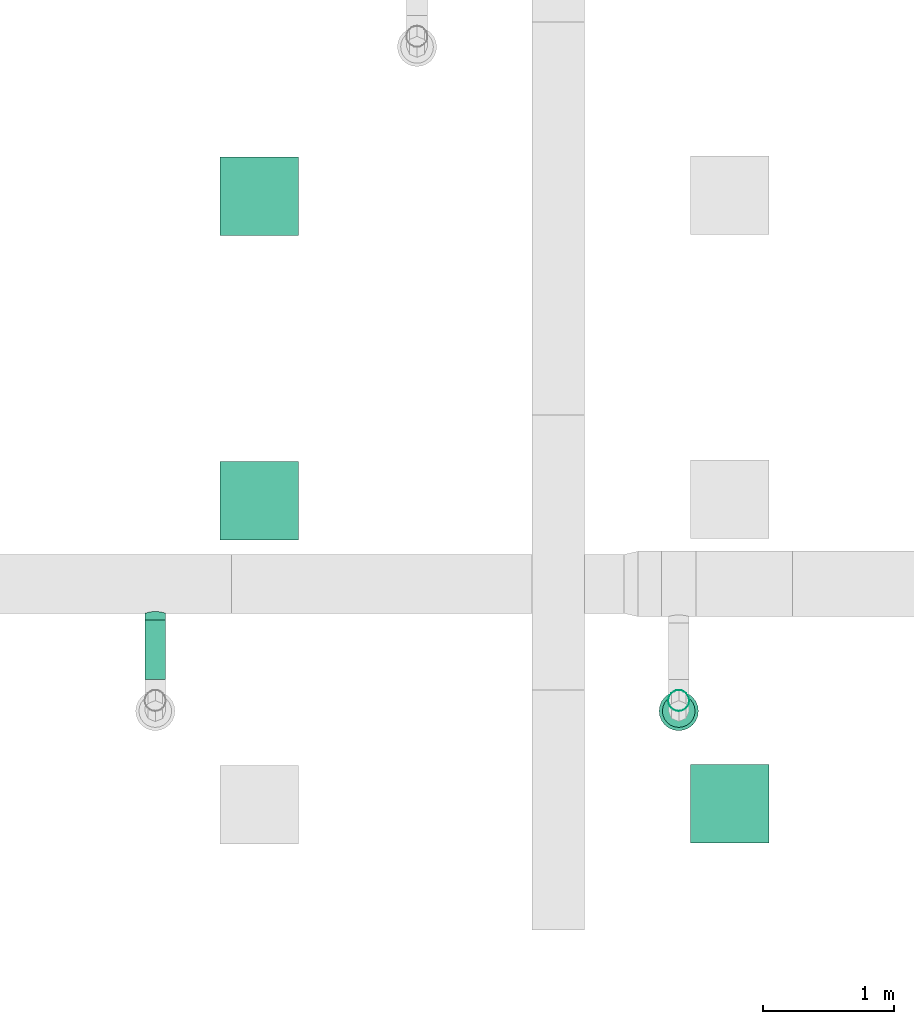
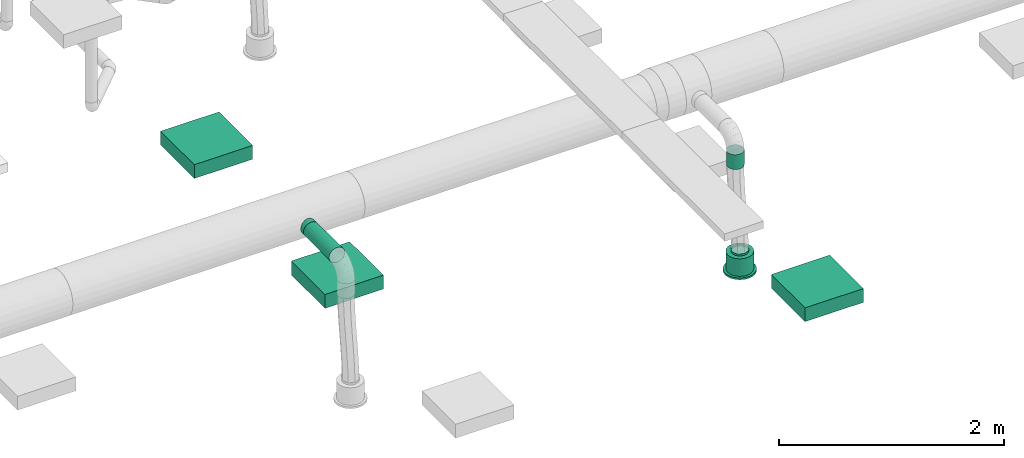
# One storey, part 71 of 374: 3 distribution elements, 3 flow segments, 1 flow terminal.
"""IFC2X3 building model written with IfcOpenShell, lengths in metres."""

import ifcopenshell
import ifcopenshell.guid

model = None  # the IFC model being written
_history = None  # IfcOwnerHistory: only IFC2X3 demands one
_inside = {}  # id of a spatial element -> (the spatial element, [elements in it])
_under = {}  # id of a project, library or spatial element -> (it, [spatial elements below it])
_declared = {}  # id of a project -> (the project, [libraries it declares])
_typed = {}  # id of a type object -> (the type object, [elements of that type])
_made_of = {}  # id of a material, layer set ... -> (it, [elements and type objects made of it])


def new_model(schema):
    """Start an empty IFC model of exactly this schema.

    Asked for "IFC4X3", IfcOpenShell would pick the latest addendum, in which some entities
    have other attributes; the version numbers below select the first issue.
    IFC2X3 requires an IfcOwnerHistory on every rooted entity: one is made here for all.
    """
    global model, _history
    if schema == "IFC4X3":
        model = ifcopenshell.file(schema_version=(4, 3, 0, 0))
    else:
        model = ifcopenshell.file(schema=schema)
    _inside.clear()
    _under.clear()
    _declared.clear()
    _typed.clear()
    _made_of.clear()
    _history = None
    if model.schema == "IFC2X3":
        org = make("IfcOrganization", Name="unknown")
        user = make(
            "IfcPersonAndOrganization",
            ThePerson=make("IfcPerson", FamilyName="unknown"),
            TheOrganization=org,
        )
        app = make(
            "IfcApplication",
            ApplicationDeveloper=org,
            Version="unknown",
            ApplicationFullName="unknown",
            ApplicationIdentifier="unknown",
        )
        _history = make(
            "IfcOwnerHistory",
            OwningUser=user,
            OwningApplication=app,
            ChangeAction="ADDED",
            CreationDate=0,
        )
    return model


def make(cls, **values):
    """One entity of the class cls with the attributes given. An attribute that is None is left unset."""
    return model.create_entity(
        cls, **{name: value for name, value in values.items() if value is not None}
    )


def rooted(cls, **values):
    """An entity with a GlobalId (a new one), such as an element, a storey or a relation."""
    return make(cls, GlobalId=ifcopenshell.guid.new(), OwnerHistory=_history, **values)


def si_unit(unit_type, name, prefix=None):
    """IfcSIUnit, for example si_unit("LENGTHUNIT", "METRE", prefix="MILLI")."""
    return make("IfcSIUnit", UnitType=unit_type, Prefix=prefix, Name=name)


def assignment(units):
    """IfcUnitAssignment: the units of a project."""
    return None if units is None else make("IfcUnitAssignment", Units=units)


def point(xyz):
    """IfcCartesianPoint."""
    return None if xyz is None else make("IfcCartesianPoint", Coordinates=xyz)


def direction(xyz):
    """IfcDirection."""
    return None if xyz is None else make("IfcDirection", DirectionRatios=xyz)


def frame(location, z_axis=None, x_axis=None):
    """IfcAxis2Placement3D, a coordinate frame: its origin and axes. An axis left out is left unset."""
    return make(
        "IfcAxis2Placement3D",
        Location=point(location),
        Axis=direction(z_axis),
        RefDirection=direction(x_axis),
    )


def frame_2d(location, x_axis=None):
    """IfcAxis2Placement2D, a coordinate frame in the plane: its origin and x axis."""
    return make(
        "IfcAxis2Placement2D", Location=point(location), RefDirection=direction(x_axis)
    )


def origin():
    """The frame at (0, 0, 0) with its axes left unset."""
    return frame((0.0, 0.0, 0.0))


def place(relative_to, where):
    """IfcLocalPlacement: puts the frame where relative to a parent placement (None: the world)."""
    return make(
        "IfcLocalPlacement", PlacementRelTo=relative_to, RelativePlacement=where
    )


def context(
    kind, dimensions, precision=None, world=None, true_north=None, identifier=None
):
    """IfcGeometricRepresentationContext, for example the 3D "Model" context."""
    return make(
        "IfcGeometricRepresentationContext",
        ContextIdentifier=identifier,
        ContextType=kind,
        CoordinateSpaceDimension=dimensions,
        Precision=precision,
        WorldCoordinateSystem=world,
        TrueNorth=true_north,
    )


def subcontext(parent, identifier, kind, view, scale=None):
    """IfcGeometricRepresentationSubContext, for example "Body" below "Model"."""
    return make(
        "IfcGeometricRepresentationSubContext",
        ContextIdentifier=identifier,
        ContextType=kind,
        ParentContext=parent,
        TargetScale=scale,
        TargetView=view,
    )


def project(units=None, contexts=None):
    """IfcProject with its units and contexts."""
    return rooted(
        "IfcProject",
        Name="project",
        RepresentationContexts=contexts,
        UnitsInContext=assignment(units),
    )


def spatial(cls, under=None, at=None, **own):
    """A site, building, storey or space (cls), placed at a placement, below another one or the project."""
    s = rooted(cls, ObjectPlacement=at, **own)
    if under is not None:
        _under.setdefault(under.id(), (under, []))[1].append(s)
    return s


def profile(cls, at=None, kind="AREA", **sizes):
    """A parametric profile (cls). Its sizes go by their IFC names, for example OverallWidth=200.0."""
    return make(cls, ProfileType=kind, Position=at, **sizes)


def rectangle(**sizes):
    """IfcRectangleProfileDef."""
    return profile("IfcRectangleProfileDef", **sizes)


def extrude(swept, where, along, depth):
    """IfcExtrudedAreaSolid: the profile swept, set in the frame where, extruded along a direction by depth."""
    return make(
        "IfcExtrudedAreaSolid",
        SweptArea=swept,
        Position=where,
        ExtrudedDirection=direction(along),
        Depth=depth,
    )


def faces_of(points, faces, orient=None, outer=None):
    """IfcFace entities. A face is a list of loops; a loop is a list of indices into points, from 0.

    orient and outer hold one flag for each loop. By default every Orientation is true, the
    first loop of a face is its IfcFaceOuterBound and the others are IfcFaceBound.
    """
    made = []
    for i, loops in enumerate(faces):
        bounds = []
        for j, loop in enumerate(loops):
            is_outer = j == 0 if outer is None else outer[i][j]
            bounds.append(
                make(
                    "IfcFaceOuterBound" if is_outer else "IfcFaceBound",
                    Bound=make("IfcPolyLoop", Polygon=[points[k] for k in loop]),
                    Orientation=True if orient is None else orient[i][j],
                )
            )
        made.append(make("IfcFace", Bounds=bounds))
    return made


def open_shell(faces, orient=None, outer=None):
    """The faces of one IfcOpenShell. surface_model builds it on its shared points."""
    return ("IfcOpenShell", faces, orient, outer)


def surface_model(cls, points, shells):
    """IfcFaceBasedSurfaceModel or IfcShellBasedSurfaceModel (cls): surfaces that need not close."""
    shared = [point(p) for p in points]
    made = [make(c, CfsFaces=faces_of(shared, fs, o, b)) for c, fs, o, b in shells]
    if cls == "IfcFaceBasedSurfaceModel":
        return make(cls, FbsmFaces=made)
    return make(cls, SbsmBoundary=made)


def shape(context_of_items, identifier, shape_type, items):
    """IfcShapeRepresentation: the items that make up one representation, for example the "Body"."""
    return make(
        "IfcShapeRepresentation",
        ContextOfItems=context_of_items,
        RepresentationIdentifier=identifier,
        RepresentationType=shape_type,
        Items=items,
    )


def source(mapping_origin, context_of_items, identifier, shape_type, items):
    """IfcRepresentationMap: a shape defined once, which mapped items show again and again."""
    return make(
        "IfcRepresentationMap",
        MappingOrigin=mapping_origin,
        MappedRepresentation=shape(context_of_items, identifier, shape_type, items),
    )


def transform(
    local_origin,
    x_axis=None,
    y_axis=None,
    z_axis=None,
    scale=None,
    scale2=None,
    scale3=None,
    uniform=True,
):
    """IfcCartesianTransformationOperator3D, or its non-uniform kind. x_axis, y_axis, z_axis: its Axis1, 2, 3."""
    if uniform:
        return make(
            "IfcCartesianTransformationOperator3D",
            Axis1=direction(x_axis),
            Axis2=direction(y_axis),
            LocalOrigin=point(local_origin),
            Scale=scale,
            Axis3=direction(z_axis),
        )
    return make(
        "IfcCartesianTransformationOperator3DnonUniform",
        Axis1=direction(x_axis),
        Axis2=direction(y_axis),
        LocalOrigin=point(local_origin),
        Scale=scale,
        Axis3=direction(z_axis),
        Scale2=scale2,
        Scale3=scale3,
    )


def mapped(mapping_source, mapping_target):
    """IfcMappedItem: shows the shape of a source again, moved by a transform."""
    return make(
        "IfcMappedItem", MappingSource=mapping_source, MappingTarget=mapping_target
    )


def made_of(thing, what):
    """Note that an element or type object is made of a material, layer set ...; save() writes the relation."""
    if what is not None:
        _made_of.setdefault(what.id(), (what, []))[1].append(thing)
    return thing


def element(
    cls,
    number,
    at=None,
    inside=None,
    cuts=None,
    type_object=None,
    material=None,
    context=None,
    identifier="Body",
    shape_type=None,
    held_by="IfcProductDefinitionShape",
    body=None,
    shapes=None,
    **own,
):
    """One element of the class cls, such as IfcWall. Its Tag is "e" and its number.

    at: its placement. inside: the storey or other place that contains it. cuts: it is an
    opening in that element (IfcRelVoidsElement). A single representation is given by context,
    identifier, shape_type and body (its items); several are given by shapes. held_by: the class
    of the entity that holds the representations. save() writes the other relations.
    """
    e = rooted(cls, Tag="e%d" % number, ObjectPlacement=at, **own)
    if body is not None:
        shapes = [shape(context, identifier, shape_type, body)]
    if shapes is not None:
        e.Representation = make(held_by, Representations=shapes)
    if inside is not None:
        _inside.setdefault(inside.id(), (inside, []))[1].append(e)
    if cuts is not None:
        rooted(
            "IfcRelVoidsElement", RelatingBuildingElement=cuts, RelatedOpeningElement=e
        )
    if type_object is not None:
        _typed.setdefault(type_object.id(), (type_object, []))[1].append(e)
    return made_of(e, material)


def aggregate(whole, parts):
    """IfcRelAggregates: a whole, such as a stair, and the parts it consists of."""
    return rooted("IfcRelAggregates", RelatingObject=whole, RelatedObjects=parts)


def save(model, path):
    """Write the relations noted so far, then the file.

    IfcRelAggregates (storeys below a building ...), IfcRelContainedInSpatialStructure (elements
    in a storey), IfcRelDefinesByType, IfcRelAssociatesMaterial and IfcRelDeclares: one each for
    every whole, place, type object, material and project.
    """
    for whole, parts in _under.values():
        aggregate(whole, parts)
    for where, things in _inside.values():
        rooted(
            "IfcRelContainedInSpatialStructure",
            RelatedElements=things,
            RelatingStructure=where,
        )
    for kind, things in _typed.values():
        rooted("IfcRelDefinesByType", RelatedObjects=things, RelatingType=kind)
    for what, things in _made_of.values():
        rooted("IfcRelAssociatesMaterial", RelatedObjects=things, RelatingMaterial=what)
    for by, libraries in _declared.values():
        rooted("IfcRelDeclares", RelatingContext=by, RelatedDefinitions=libraries)
    model.write(path)


model = new_model("IFC2X3")

# Units and contexts
model_context = context("Model", 3, precision=1e-05, world=origin(), true_north=direction((-0.4480736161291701, 0.8939966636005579)))
body_context = subcontext(model_context, "Body", "Model", "MODEL_VIEW")
ifc_project = project(units=[si_unit("LENGTHUNIT", "METRE"), si_unit("AREAUNIT", "SQUARE_METRE"), si_unit("VOLUMEUNIT", "CUBIC_METRE"), si_unit("PLANEANGLEUNIT", "RADIAN"), si_unit("THERMODYNAMICTEMPERATUREUNIT", "KELVIN"), si_unit("MASSUNIT", "GRAM", prefix="KILO"), si_unit("TIMEUNIT", "SECOND")], contexts=[model_context])

# Site, building, storey
site_placement = place(None, origin())
site = spatial("IfcSite", under=ifc_project, at=site_placement, Name="Site 1", CompositionType="ELEMENT")
building_placement = place(site_placement, origin())
building = spatial("IfcBuilding", under=site, at=building_placement, Name="Undefined", CompositionType="ELEMENT")
storey_placement = place(building_placement, origin())
storey = spatial("IfcBuildingStorey", under=building, at=storey_placement, Name="Rez de chauss\x8ee", CompositionType="ELEMENT", Elevation=0.0)

# Flow terminal
shared_shape_1 = source(origin(), body_context, "Body", "SurfaceModel", [
    surface_model("IfcFaceBasedSurfaceModel", [(0.0, 0.0, 0.0), (0.03915785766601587, 0.0, 0.0), (0.03915785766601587, 0.020000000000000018, 0.0), (3.552713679e-15, 0.020000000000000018, 0.0), (0.07698144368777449, 0.0, -0.010134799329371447), (0.07698144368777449, 0.020000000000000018, -0.010134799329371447), (0.11089314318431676, 0.0, -0.02971372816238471), (0.11089314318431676, 0.020000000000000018, -0.02971372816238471), (0.13858192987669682, 0.0, -0.05740251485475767), (0.13858192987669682, 0.020000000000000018, -0.05740251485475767), (0.15816085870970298, 0.0, -0.09131421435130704), (0.15816085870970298, 0.020000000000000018, -0.09131421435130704), (0.16829565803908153, 0.0, -0.12913780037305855), (0.16829565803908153, 0.020000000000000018, -0.12913780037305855), (0.16829565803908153, 0.0, -0.16829565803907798), (0.16829565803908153, 0.020000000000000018, -0.16829565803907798), (0.15816085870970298, 0.0, -0.20611924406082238), (0.15816085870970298, 0.020000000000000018, -0.20611924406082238), (0.13858192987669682, 0.0, -0.24003094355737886), (0.13858192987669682, 0.020000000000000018, -0.24003094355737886), (0.11089314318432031, 0.0, -0.2677197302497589), (0.11089314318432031, 0.020000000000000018, -0.2677197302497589), (0.07698144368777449, 0.0, -0.2872986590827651), (0.07698144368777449, 0.020000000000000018, -0.2872986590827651), (0.039157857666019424, 0.0, -0.29743345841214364), (0.039157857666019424, 0.020000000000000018, -0.29743345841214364), (3.552713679e-15, 0.0, -0.29743345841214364), (3.552713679e-15, 0.020000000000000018, -0.29743345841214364), (-0.03782358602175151, 0.0, -0.2872986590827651), (-0.03782358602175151, 0.020000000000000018, -0.2872986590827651), (-0.07173528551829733, 0.0, -0.2677197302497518), (-0.07173528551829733, 0.020000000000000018, -0.2677197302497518), (-0.0994240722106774, 0.0, -0.24003094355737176), (-0.0994240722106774, 0.020000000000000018, -0.24003094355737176), (-0.11900300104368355, 0.0, -0.2061192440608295), (-0.11900300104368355, 0.020000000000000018, -0.2061192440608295), (-0.1291378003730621, 0.0, -0.16829565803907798), (-0.1291378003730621, 0.020000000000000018, -0.16829565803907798), (-0.1291378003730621, 0.0, -0.12913780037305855), (-0.1291378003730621, 0.020000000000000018, -0.12913780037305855), (-0.11900300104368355, 0.0, -0.09131421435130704), (-0.11900300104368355, 0.020000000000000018, -0.09131421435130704), (-0.0994240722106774, 0.0, -0.05740251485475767), (-0.0994240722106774, 0.020000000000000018, -0.05740251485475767), (-0.07173528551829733, 0.0, -0.029713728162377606), (-0.07173528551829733, 0.020000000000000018, -0.029713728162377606), (-0.03782358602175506, 0.0, -0.010134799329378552), (-0.03782358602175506, 0.020000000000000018, -0.010134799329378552), (0.019578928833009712, 0.0, -0.14871672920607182), (0.019578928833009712, 0.020000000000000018, -0.14871672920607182), (0.003263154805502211, 0.020000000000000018, -0.02478612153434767), (0.035894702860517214, 0.020000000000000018, -0.02478612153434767), (0.035894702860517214, 0.20999999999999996, -0.02478612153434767), (0.003263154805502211, 0.20999999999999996, -0.02478612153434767), (0.06741435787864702, 0.020000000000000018, -0.033231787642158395), (0.06741435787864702, 0.20999999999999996, -0.033231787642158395), (0.0956741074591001, 0.020000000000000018, -0.04954756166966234), (0.0956741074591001, 0.20999999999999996, -0.04954756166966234), (0.11874809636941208, 0.020000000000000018, -0.07262155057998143), (0.11874809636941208, 0.20999999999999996, -0.07262155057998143), (0.13506387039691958, 0.020000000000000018, -0.10088130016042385), (0.13506387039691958, 0.20999999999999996, -0.10088130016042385), (0.1435095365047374, 0.020000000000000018, -0.13240095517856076), (0.1435095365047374, 0.20999999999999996, -0.13240095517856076), (0.1435095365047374, 0.020000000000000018, -0.16503250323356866), (0.1435095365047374, 0.20999999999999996, -0.16503250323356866), (0.13506387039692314, 0.020000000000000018, -0.19655215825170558), (0.13506387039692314, 0.20999999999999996, -0.19655215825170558), (0.11874809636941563, 0.020000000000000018, -0.2248119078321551), (0.11874809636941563, 0.20999999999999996, -0.2248119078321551), (0.09567410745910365, 0.020000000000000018, -0.24788589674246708), (0.09567410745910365, 0.20999999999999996, -0.24788589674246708), (0.06741435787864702, 0.020000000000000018, -0.26420167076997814), (0.06741435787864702, 0.20999999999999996, -0.26420167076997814), (0.035894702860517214, 0.020000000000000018, -0.27264733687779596), (0.035894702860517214, 0.20999999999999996, -0.27264733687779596), (0.0032631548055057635, 0.020000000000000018, -0.27264733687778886), (0.0032631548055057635, 0.20999999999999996, -0.27264733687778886), (-0.028256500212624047, 0.020000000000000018, -0.26420167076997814), (-0.028256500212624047, 0.20999999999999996, -0.26420167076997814), (-0.05651624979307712, 0.020000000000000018, -0.2478858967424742), (-0.05651624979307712, 0.20999999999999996, -0.2478858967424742), (-0.07959023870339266, 0.020000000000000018, -0.2248119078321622), (-0.07959023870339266, 0.20999999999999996, -0.2248119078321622), (-0.09590601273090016, 0.020000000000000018, -0.19655215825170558), (-0.09590601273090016, 0.20999999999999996, -0.19655215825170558), (-0.10435167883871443, 0.020000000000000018, -0.16503250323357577), (-0.10435167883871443, 0.20999999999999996, -0.16503250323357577), (-0.10435167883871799, 0.020000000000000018, -0.13240095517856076), (-0.10435167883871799, 0.20999999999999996, -0.13240095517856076), (-0.09590601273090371, 0.020000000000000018, -0.10088130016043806), (-0.09590601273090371, 0.20999999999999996, -0.10088130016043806), (-0.07959023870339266, 0.020000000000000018, -0.07262155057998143), (-0.07959023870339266, 0.20999999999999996, -0.07262155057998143), (-0.056516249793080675, 0.020000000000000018, -0.04954756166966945), (-0.056516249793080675, 0.20999999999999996, -0.04954756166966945), (-0.028256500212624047, 0.020000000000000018, -0.033231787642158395), (-0.028256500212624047, 0.20999999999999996, -0.033231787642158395), (0.019578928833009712, 0.20999999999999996, -0.14871672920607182), (0.009136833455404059, 0.20999999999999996, -0.06940114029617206), (0.030021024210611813, 0.20999999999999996, -0.06940114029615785), (0.030021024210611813, 0.22999999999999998, -0.06940114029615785), (0.009136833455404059, 0.22999999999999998, -0.06940114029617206), (0.05019360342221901, 0.20999999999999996, -0.07480636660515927), (0.05019360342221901, 0.22999999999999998, -0.07480636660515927), (0.06827984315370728, 0.20999999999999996, -0.08524846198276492), (0.06827984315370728, 0.22999999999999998, -0.08524846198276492), (0.0830471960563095, 0.20999999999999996, -0.10001581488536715), (0.0830471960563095, 0.22999999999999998, -0.10001581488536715), (0.0934892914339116, 0.20999999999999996, -0.11810205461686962), (0.0934892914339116, 0.22999999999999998, -0.11810205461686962), (0.09889451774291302, 0.20999999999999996, -0.13827463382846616), (0.09889451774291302, 0.22999999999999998, -0.13827463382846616), (0.09889451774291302, 0.20999999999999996, -0.15915882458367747), (0.09889451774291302, 0.22999999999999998, -0.15915882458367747), (0.09348929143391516, 0.20999999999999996, -0.179331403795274), (0.09348929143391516, 0.22999999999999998, -0.179331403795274), (0.0830471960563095, 0.20999999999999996, -0.19741764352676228), (0.0830471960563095, 0.22999999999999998, -0.19741764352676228), (0.06827984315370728, 0.20999999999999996, -0.2121849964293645), (0.06827984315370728, 0.22999999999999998, -0.2121849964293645), (0.05019360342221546, 0.20999999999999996, -0.22262709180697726), (0.05019360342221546, 0.22999999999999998, -0.22262709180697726), (0.030021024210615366, 0.20999999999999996, -0.22803231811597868), (0.030021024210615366, 0.22999999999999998, -0.22803231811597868), (0.009136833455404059, 0.20999999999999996, -0.22803231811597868), (0.009136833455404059, 0.22999999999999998, -0.22803231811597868), (-0.011035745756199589, 0.20999999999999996, -0.22262709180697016), (-0.011035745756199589, 0.22999999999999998, -0.22262709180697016), (-0.0291219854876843, 0.20999999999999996, -0.2121849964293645), (-0.0291219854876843, 0.22999999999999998, -0.2121849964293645), (-0.043889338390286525, 0.20999999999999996, -0.19741764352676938), (-0.043889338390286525, 0.22999999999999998, -0.19741764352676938), (-0.05433143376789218, 0.20999999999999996, -0.17933140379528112), (-0.05433143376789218, 0.22999999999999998, -0.17933140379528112), (-0.05973666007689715, 0.20999999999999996, -0.15915882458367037), (-0.05973666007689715, 0.22999999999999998, -0.15915882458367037), (-0.0597366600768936, 0.20999999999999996, -0.13827463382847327), (-0.0597366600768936, 0.22999999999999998, -0.13827463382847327), (-0.05433143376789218, 0.20999999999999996, -0.11810205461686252), (-0.05433143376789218, 0.22999999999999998, -0.11810205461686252), (-0.043889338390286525, 0.20999999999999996, -0.10001581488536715), (-0.043889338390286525, 0.22999999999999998, -0.10001581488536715), (-0.02912198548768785, 0.20999999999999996, -0.08524846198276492), (-0.02912198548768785, 0.22999999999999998, -0.08524846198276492), (-0.011035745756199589, 0.20999999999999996, -0.07480636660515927), (-0.011035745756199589, 0.22999999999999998, -0.07480636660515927)], [open_shell([[[0, 1, 2, 3]], [[1, 4, 5, 2]], [[4, 6, 7, 5]], [[6, 8, 9, 7]], [[8, 10, 11, 9]], [[10, 12, 13, 11]], [[12, 14, 15, 13]], [[14, 16, 17, 15]], [[16, 18, 19, 17]], [[18, 20, 21, 19]], [[20, 22, 23, 21]], [[22, 24, 25, 23]], [[24, 26, 27, 25]], [[26, 28, 29, 27]], [[28, 30, 31, 29]], [[30, 32, 33, 31]], [[32, 34, 35, 33]], [[34, 36, 37, 35]], [[36, 38, 39, 37]], [[38, 40, 41, 39]], [[40, 42, 43, 41]], [[42, 44, 45, 43]], [[44, 46, 47, 45]], [[46, 0, 3, 47]], [[48, 1, 0]], [[48, 4, 1]], [[48, 6, 4]], [[48, 8, 6]], [[48, 10, 8]], [[48, 12, 10]], [[48, 14, 12]], [[48, 16, 14]], [[48, 18, 16]], [[48, 20, 18]], [[48, 22, 20]], [[48, 24, 22]], [[48, 26, 24]], [[48, 28, 26]], [[48, 30, 28]], [[48, 32, 30]], [[48, 34, 32]], [[48, 36, 34]], [[48, 38, 36]], [[48, 40, 38]], [[48, 42, 40]], [[48, 44, 42]], [[48, 46, 44]], [[48, 0, 46]], [[49, 47, 3]], [[49, 45, 47]], [[49, 43, 45]], [[49, 41, 43]], [[49, 39, 41]], [[49, 37, 39]], [[49, 35, 37]], [[49, 33, 35]], [[49, 31, 33]], [[49, 29, 31]], [[49, 27, 29]], [[49, 25, 27]], [[49, 23, 25]], [[49, 21, 23]], [[49, 19, 21]], [[49, 17, 19]], [[49, 15, 17]], [[49, 13, 15]], [[49, 11, 13]], [[49, 9, 11]], [[49, 7, 9]], [[49, 5, 7]], [[49, 2, 5]], [[49, 3, 2]], [[50, 51, 52, 53]], [[51, 54, 55, 52]], [[54, 56, 57, 55]], [[56, 58, 59, 57]], [[58, 60, 61, 59]], [[60, 62, 63, 61]], [[62, 64, 65, 63]], [[64, 66, 67, 65]], [[66, 68, 69, 67]], [[68, 70, 71, 69]], [[70, 72, 73, 71]], [[72, 74, 75, 73]], [[74, 76, 77, 75]], [[76, 78, 79, 77]], [[78, 80, 81, 79]], [[80, 82, 83, 81]], [[82, 84, 85, 83]], [[84, 86, 87, 85]], [[86, 88, 89, 87]], [[88, 90, 91, 89]], [[90, 92, 93, 91]], [[92, 94, 95, 93]], [[94, 96, 97, 95]], [[96, 50, 53, 97]], [[49, 51, 50]], [[49, 54, 51]], [[49, 56, 54]], [[49, 58, 56]], [[49, 60, 58]], [[49, 62, 60]], [[49, 64, 62]], [[49, 66, 64]], [[49, 68, 66]], [[49, 70, 68]], [[49, 72, 70]], [[49, 74, 72]], [[49, 76, 74]], [[49, 78, 76]], [[49, 80, 78]], [[49, 82, 80]], [[49, 84, 82]], [[49, 86, 84]], [[49, 88, 86]], [[49, 90, 88]], [[49, 92, 90]], [[49, 94, 92]], [[49, 96, 94]], [[49, 50, 96]], [[98, 97, 53]], [[98, 95, 97]], [[98, 93, 95]], [[98, 91, 93]], [[98, 89, 91]], [[98, 87, 89]], [[98, 85, 87]], [[98, 83, 85]], [[98, 81, 83]], [[98, 79, 81]], [[98, 77, 79]], [[98, 75, 77]], [[98, 73, 75]], [[98, 71, 73]], [[98, 69, 71]], [[98, 67, 69]], [[98, 65, 67]], [[98, 63, 65]], [[98, 61, 63]], [[98, 59, 61]], [[98, 57, 59]], [[98, 55, 57]], [[98, 52, 55]], [[98, 53, 52]], [[99, 100, 101, 102]], [[100, 103, 104, 101]], [[103, 105, 106, 104]], [[105, 107, 108, 106]], [[107, 109, 110, 108]], [[109, 111, 112, 110]], [[111, 113, 114, 112]], [[113, 115, 116, 114]], [[115, 117, 118, 116]], [[117, 119, 120, 118]], [[119, 121, 122, 120]], [[121, 123, 124, 122]], [[123, 125, 126, 124]], [[125, 127, 128, 126]], [[127, 129, 130, 128]], [[129, 131, 132, 130]], [[131, 133, 134, 132]], [[133, 135, 136, 134]], [[135, 137, 138, 136]], [[137, 139, 140, 138]], [[139, 141, 142, 140]], [[141, 143, 144, 142]], [[143, 145, 146, 144]], [[145, 99, 102, 146]]])]),
])
flow_terminal_placement = place(storey_placement, origin())
element("IfcFlowTerminal", 1, at=flow_terminal_placement, inside=storey, Name="Air diffuseur - bouche", ObjectType="Air diffuseur - bouche", context=body_context, shape_type="MappedRepresentation", body=[
    mapped(shared_shape_1, transform((58.2900014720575, 2.0299997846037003, 2.38), x_axis=(-0.9914448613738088, -0.13052619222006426, 0.0), y_axis=(0.0, 0.0, 1.0), z_axis=(-0.13052619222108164, 0.9914448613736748, 0.0))),
])

# Flow segments
shared_shape_2 = source(origin(), body_context, "Body", "SurfaceModel", [
    surface_model("IfcFaceBasedSurfaceModel", [(0.0009547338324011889, 0.020884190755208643, 0.0), (0.0, 0.0, 0.0), (0.05095473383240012, 0.0, -3.552713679e-15), (0.05095473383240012, 0.020884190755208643, 0.0), (-0.0026293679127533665, -0.02017257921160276, -0.005405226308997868), (0.05095473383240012, -0.02017257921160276, -0.005405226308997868), (-0.0062724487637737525, -0.038258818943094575, -0.01584732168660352), (0.05095473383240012, -0.038258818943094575, -0.01584732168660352), (-0.009977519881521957, -0.05302617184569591, -0.030614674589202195), (0.05095473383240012, -0.05302617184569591, -0.030614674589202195), (-0.012731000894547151, -0.06346826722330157, -0.04870091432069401), (0.05095473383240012, -0.06346826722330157, -0.04870091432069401), (-0.013747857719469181, -0.06887349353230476, -0.0688734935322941), (0.05095473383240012, -0.06887349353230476, -0.0688734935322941), (-0.012731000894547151, -0.06887349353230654, -0.08975768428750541), (0.05095473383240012, -0.06887349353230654, -0.08975768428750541), (-0.009977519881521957, -0.0634682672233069, -0.10993026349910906), (0.05095473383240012, -0.0634682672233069, -0.10993026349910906), (-0.0062724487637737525, -0.05302617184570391, -0.12801650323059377), (0.05095473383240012, -0.05302617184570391, -0.12801650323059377), (-0.0026293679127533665, -0.038258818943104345, -0.14278385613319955), (0.05095473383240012, -0.038258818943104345, -0.14278385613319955), (0.0, -0.020172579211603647, -0.15322595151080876), (0.05095473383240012, -0.020172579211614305, -0.1532259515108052), (0.0009547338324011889, -1.1546319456e-14, -0.15863117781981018), (0.05095473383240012, -1.1546319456e-14, -0.15863117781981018), (0.0, 0.020884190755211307, -0.15863117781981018), (0.05095473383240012, 0.020884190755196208, -0.15863117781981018), (-0.0026293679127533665, 0.041056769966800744, -0.15322595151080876), (0.05095473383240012, 0.041056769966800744, -0.15322595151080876), (-0.0062724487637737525, 0.05914300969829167, -0.1427838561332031), (0.05095473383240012, 0.05914300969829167, -0.1427838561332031), (-0.009977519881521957, 0.07391036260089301, -0.12801650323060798), (0.05095473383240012, 0.07391036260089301, -0.12801650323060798), (-0.012731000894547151, 0.08435245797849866, -0.10993026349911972), (0.05095473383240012, 0.08435245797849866, -0.10993026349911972), (-0.013747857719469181, 0.08975768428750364, -0.08975768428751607), (0.05095473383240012, 0.08975768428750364, -0.08975768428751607), (-0.012731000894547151, 0.08975768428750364, -0.06887349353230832), (0.05095473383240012, 0.08975768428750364, -0.06887349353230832), (-0.009977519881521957, 0.08435245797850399, -0.048700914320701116), (0.05095473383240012, 0.08435245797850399, -0.048700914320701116), (-0.0062724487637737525, 0.073910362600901, -0.030614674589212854), (0.05095473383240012, 0.073910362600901, -0.030614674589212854), (-0.0026293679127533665, 0.05914300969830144, -0.015847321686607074), (0.05095473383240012, 0.05914300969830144, -0.015847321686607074), (0.0, 0.04105676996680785, -0.005405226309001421), (0.05095473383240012, 0.0410567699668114, -0.005405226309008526)], [open_shell([[[0, 1, 2, 3]], [[1, 4, 5, 2]], [[4, 6, 7, 5]], [[6, 8, 9, 7]], [[8, 10, 11, 9]], [[10, 12, 13, 11]], [[12, 14, 15, 13]], [[14, 16, 17, 15]], [[16, 18, 19, 17]], [[18, 20, 21, 19]], [[20, 22, 23, 21]], [[22, 24, 25, 23]], [[24, 26, 27, 25]], [[26, 28, 29, 27]], [[28, 30, 31, 29]], [[30, 32, 33, 31]], [[32, 34, 35, 33]], [[34, 36, 37, 35]], [[36, 38, 39, 37]], [[38, 40, 41, 39]], [[40, 42, 43, 41]], [[42, 44, 45, 43]], [[44, 46, 47, 45]], [[46, 0, 3, 47]]])]),
])
flow_segment_1_placement = place(storey_placement, origin())
element("IfcFlowSegment", 2, at=flow_segment_1_placement, inside=storey, Name="Piquage équerre circulaire", ObjectType="Piquage équerre circulaire", context=body_context, shape_type="MappedRepresentation", body=[
    mapped(shared_shape_2, transform((54.21272731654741, 2.627252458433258, 3.779294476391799), x_axis=(0.0, -1.0, 0.0), y_axis=(-0.13052619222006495, 0.0, 0.9914448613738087), z_axis=(-0.9914448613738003, 0.0, -0.13052619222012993))),
])
shared_shape_3 = source(origin(), body_context, "Body", "SurfaceModel", [
    surface_model("IfcFaceBasedSurfaceModel", [(0.0, 0.020884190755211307, 0.0), (0.0, 0.0, 0.0), (0.16000000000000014, 0.0, -4.4408921e-16), (0.16000000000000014, 0.0208841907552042, -4.4408921e-16), (0.0, -0.020172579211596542, -0.005405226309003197), (0.16000000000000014, -0.020172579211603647, -0.005405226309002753), (0.0, -0.03825881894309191, -0.015847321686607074), (0.16000000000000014, -0.03825881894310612, -0.015847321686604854), (0.0, -0.05302617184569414, -0.0306146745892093), (0.16000000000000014, -0.05302617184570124, -0.03061467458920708), (0.0, -0.06346826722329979, -0.04870091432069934), (0.16000000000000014, -0.0634682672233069, -0.04870091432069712), (0.0, -0.06887349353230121, -0.06887349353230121), (0.16000000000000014, -0.06887349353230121, -0.06887349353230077), (0.0, -0.06887349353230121, -0.08975768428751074), (0.16000000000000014, -0.06887349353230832, -0.08975768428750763), (0.0, -0.06346826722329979, -0.10993026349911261), (0.16000000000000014, -0.0634682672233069, -0.10993026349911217), (0.0, -0.05302617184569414, -0.12801650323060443), (0.16000000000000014, -0.05302617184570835, -0.1280165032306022), (0.0, -0.038258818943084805, -0.14278385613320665), (0.16000000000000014, -0.03825881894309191, -0.14278385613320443), (0.0, -0.020172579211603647, -0.15322595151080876), (0.16000000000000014, -0.020172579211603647, -0.1532259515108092), (0.0, 7.105427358e-15, -0.15863117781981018), (0.16000000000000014, -7.105427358e-15, -0.15863117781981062), (0.0, 0.020884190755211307, -0.15863117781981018), (0.16000000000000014, 0.0208841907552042, -0.15863117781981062), (0.0, 0.04105676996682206, -0.15322595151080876), (0.16000000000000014, 0.04105676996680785, -0.1532259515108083), (0.0, 0.05914300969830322, -0.1427838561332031), (0.16000000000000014, 0.05914300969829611, -0.14278385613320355), (0.0, 0.07391036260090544, -0.12801650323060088), (0.16000000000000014, 0.07391036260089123, -0.1280165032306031), (0.0, 0.0843524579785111, -0.10993026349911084), (0.16000000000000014, 0.08435245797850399, -0.10993026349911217), (0.0, 0.08975768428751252, -0.08975768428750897), (0.16000000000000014, 0.08975768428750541, -0.08975768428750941), (0.0, 0.08975768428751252, -0.06887349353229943), (0.16000000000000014, 0.08975768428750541, -0.06887349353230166), (0.0, 0.0843524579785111, -0.048700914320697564), (0.16000000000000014, 0.08435245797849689, -0.04870091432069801), (0.0, 0.07391036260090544, -0.030614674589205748), (0.16000000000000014, 0.07391036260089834, -0.03061467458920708), (0.0, 0.05914300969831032, -0.015847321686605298), (0.16000000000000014, 0.05914300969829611, -0.01584732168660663), (0.0, 0.04105676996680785, -0.005405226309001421), (0.16000000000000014, 0.04105676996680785, -0.005405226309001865)], [open_shell([[[0, 1, 2, 3]], [[1, 4, 5, 2]], [[4, 6, 7, 5]], [[6, 8, 9, 7]], [[8, 10, 11, 9]], [[10, 12, 13, 11]], [[12, 14, 15, 13]], [[14, 16, 17, 15]], [[16, 18, 19, 17]], [[18, 20, 21, 19]], [[20, 22, 23, 21]], [[22, 24, 25, 23]], [[24, 26, 27, 25]], [[26, 28, 29, 27]], [[28, 30, 31, 29]], [[30, 32, 33, 31]], [[32, 34, 35, 33]], [[34, 36, 37, 35]], [[36, 38, 39, 37]], [[38, 40, 41, 39]], [[40, 42, 43, 41]], [[42, 44, 45, 43]], [[44, 46, 47, 45]], [[46, 0, 3, 47]]])]),
])
flow_segment_2_placement = place(storey_placement, origin())
element("IfcFlowSegment", 3, at=flow_segment_2_placement, inside=storey, Name="Tube", ObjectType="Tube", context=body_context, shape_type="MappedRepresentation", body=[
    mapped(shared_shape_3, transform((58.2692959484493, 2.0372738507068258, 3.4800000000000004), x_axis=(0.0, 0.0, 1.0), y_axis=(0.9914448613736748, 0.13052619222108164, 0.0), z_axis=(-0.13052619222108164, 0.9914448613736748, 0.0))),
])
shared_shape_4 = source(origin(), body_context, "Body", "SurfaceModel", [
    surface_model("IfcFaceBasedSurfaceModel", [(0.0, 0.020884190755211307, 0.0), (0.0, 0.0, 0.0), (0.4562979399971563, -7.105427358e-15, 0.0), (0.4562979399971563, 0.0208841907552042, 0.0), (0.0, -0.020172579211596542, -0.005405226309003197), (0.4562979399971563, -0.020172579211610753, -0.005405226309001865), (0.0, -0.03825881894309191, -0.015847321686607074), (0.4562979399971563, -0.038258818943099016, -0.015847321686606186), (0.0, -0.05302617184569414, -0.0306146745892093), (0.4562979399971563, -0.05302617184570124, -0.03061467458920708), (0.0, -0.06346826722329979, -0.04870091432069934), (0.4562979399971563, -0.0634682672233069, -0.04870091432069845), (0.0, -0.06887349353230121, -0.06887349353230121), (0.4562979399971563, -0.06887349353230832, -0.06887349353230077), (0.0, -0.06887349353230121, -0.08975768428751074), (0.4562979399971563, -0.06887349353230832, -0.08975768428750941), (0.0, -0.06346826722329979, -0.10993026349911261), (0.4562979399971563, -0.0634682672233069, -0.10993026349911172), (0.0, -0.05302617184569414, -0.12801650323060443), (0.4562979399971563, -0.05302617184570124, -0.12801650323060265), (0.0, -0.038258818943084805, -0.14278385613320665), (0.4562979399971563, -0.038258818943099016, -0.1427838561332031), (0.0, -0.020172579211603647, -0.15322595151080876), (0.4562979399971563, -0.020172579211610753, -0.15322595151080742), (0.0, 7.105427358e-15, -0.15863117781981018), (0.4562979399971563, -7.105427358e-15, -0.1586311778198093), (0.0, 0.020884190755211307, -0.15863117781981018), (0.4562979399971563, 0.020884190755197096, -0.15863117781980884), (0.0, 0.04105676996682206, -0.15322595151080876), (0.4562979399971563, 0.04105676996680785, -0.15322595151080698), (0.0, 0.05914300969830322, -0.1427838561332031), (0.4562979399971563, 0.05914300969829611, -0.14278385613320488), (0.0, 0.07391036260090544, -0.12801650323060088), (0.4562979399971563, 0.07391036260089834, -0.12801650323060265), (0.0, 0.0843524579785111, -0.10993026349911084), (0.4562979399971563, 0.08435245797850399, -0.10993026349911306), (0.0, 0.08975768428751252, -0.08975768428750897), (0.4562979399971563, 0.08975768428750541, -0.0897576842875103), (0.0, 0.08975768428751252, -0.06887349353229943), (0.4562979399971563, 0.08975768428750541, -0.0688734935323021), (0.0, 0.0843524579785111, -0.048700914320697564), (0.4562979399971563, 0.08435245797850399, -0.04870091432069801), (0.0, 0.07391036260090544, -0.030614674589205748), (0.4562979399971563, 0.07391036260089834, -0.030614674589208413), (0.0, 0.05914300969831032, -0.015847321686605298), (0.4562979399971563, 0.05914300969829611, -0.015847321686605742), (0.0, 0.04105676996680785, -0.005405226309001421), (0.4562979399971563, 0.041056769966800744, -0.005405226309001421)], [open_shell([[[0, 1, 2, 3]], [[1, 4, 5, 2]], [[4, 6, 7, 5]], [[6, 8, 9, 7]], [[8, 10, 11, 9]], [[10, 12, 13, 11]], [[12, 14, 15, 13]], [[14, 16, 17, 15]], [[16, 18, 19, 17]], [[18, 20, 21, 19]], [[20, 22, 23, 21]], [[22, 24, 25, 23]], [[24, 26, 27, 25]], [[26, 28, 29, 27]], [[28, 30, 31, 29]], [[30, 32, 33, 31]], [[32, 34, 35, 33]], [[34, 36, 37, 35]], [[36, 38, 39, 37]], [[38, 40, 41, 39]], [[40, 42, 43, 41]], [[42, 44, 45, 43]], [[44, 46, 47, 45]], [[46, 0, 3, 47]]])]),
])
flow_segment_3_placement = place(storey_placement, origin())
element("IfcFlowSegment", 4, at=flow_segment_3_placement, inside=storey, Name="Tube", ObjectType="Tube", context=body_context, shape_type="MappedRepresentation", body=[
    mapped(shared_shape_4, transform((54.26929585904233, 2.576297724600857, 3.877274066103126), x_axis=(0.0, -1.0, 0.0), y_axis=(0.9914448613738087, 0.0, 0.13052619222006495), z_axis=(-0.13052619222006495, 0.0, 0.9914448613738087))),
])

# Distribution elements
distribution_element_1_placement = place(storey_placement, origin())
element("IfcDistributionElement", 5, at=distribution_element_1_placement, inside=storey, Name="Decken-Rechteckleuchte mit Rahmen AP", ObjectType="Decken-Rechteckleuchte mit Rahmen AP", context=body_context, shape_type="SweptSolid", body=[
    extrude(rectangle(XDim=0.6000000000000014, YDim=0.6000000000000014, at=frame_2d((3.552713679e-15, 0.0), x_axis=(0.0, 1.0))), frame((58.67818011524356, 1.172841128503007, 2.5500000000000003), z_axis=(0.0, 0.0, -1.0), x_axis=(1.0, 0.0, 0.0)), (0.0, 0.0, 1.0), 0.15),
])
distribution_element_2_placement = place(storey_placement, origin())
element("IfcDistributionElement", 6, at=distribution_element_2_placement, inside=storey, Name="Decken-Rechteckleuchte mit Rahmen AP", ObjectType="Decken-Rechteckleuchte mit Rahmen AP", context=body_context, shape_type="SweptSolid", body=[
    extrude(rectangle(XDim=0.6000000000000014, YDim=0.6000000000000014, at=frame_2d((3.552713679e-15, 0.0), x_axis=(0.0, 1.0))), frame((55.08360573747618, 5.8125, 2.5500000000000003), z_axis=(0.0, 0.0, -1.0), x_axis=(1.0, 0.0, 0.0)), (0.0, 0.0, 1.0), 0.15),
])
distribution_element_3_placement = place(storey_placement, origin())
element("IfcDistributionElement", 7, at=distribution_element_3_placement, inside=storey, Name="Decken-Rechteckleuchte mit Rahmen AP", ObjectType="Decken-Rechteckleuchte mit Rahmen AP", context=body_context, shape_type="SweptSolid", body=[
    extrude(rectangle(XDim=0.6000000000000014, YDim=0.6000000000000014, at=frame_2d((3.552713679e-15, 0.0), x_axis=(0.0, 1.0))), frame((55.08360573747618, 3.4875, 2.5500000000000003), z_axis=(0.0, 0.0, -1.0), x_axis=(1.0, 0.0, 0.0)), (0.0, 0.0, 1.0), 0.15),
])

save(model, "model.ifc")
